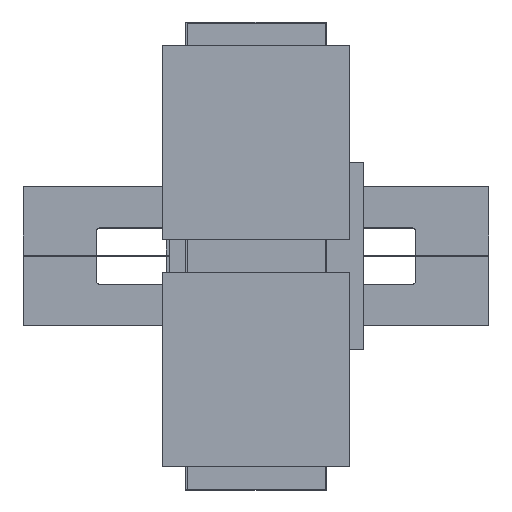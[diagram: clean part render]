
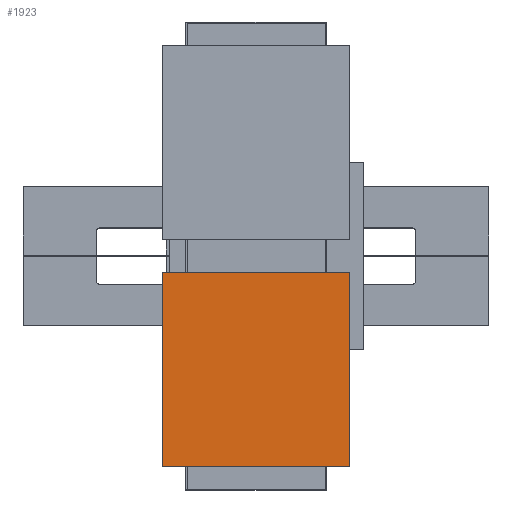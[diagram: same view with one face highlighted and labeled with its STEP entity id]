
A CAD part, top view. The second image highlights one B-rep face of the part: STEP entity #1923.
In plain terms, the highlighted planar face has unit normal (0, 0, 1).
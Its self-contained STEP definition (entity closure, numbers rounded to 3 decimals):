
#1923 = ADVANCED_FACE( '', ( #5096 ), #5097, .T. );
#5096 = FACE_OUTER_BOUND( '', #8607, .T. );
#5097 = PLANE( '', #8608 );
#8607 = EDGE_LOOP( '', ( #22576, #22577, #22578, #22579 ) );
#8608 = AXIS2_PLACEMENT_3D( '', #22580, #22581, #22582 );
#22576 = ORIENTED_EDGE( '', *, *, #26651, .T. );
#22577 = ORIENTED_EDGE( '', *, *, #26688, .T. );
#22578 = ORIENTED_EDGE( '', *, *, #26692, .T. );
#22579 = ORIENTED_EDGE( '', *, *, #26683, .T. );
#22580 = CARTESIAN_POINT( '', ( -92.5, -100., 49. ) );
#22581 = DIRECTION( '', ( 0., 0., 1. ) );
#22582 = DIRECTION( '', ( 1., 0., 0. ) );
#26651 = EDGE_CURVE( '', #33250, #33248, #33251, .T. );
#26683 = EDGE_CURVE( '', #33307, #33250, #33308, .T. );
#26688 = EDGE_CURVE( '', #33248, #33314, #33316, .T. );
#26692 = EDGE_CURVE( '', #33314, #33307, #33322, .T. );
#33248 = VERTEX_POINT( '', #46497 );
#33250 = VERTEX_POINT( '', #46500 );
#33251 = LINE( '', #46501, #46502 );
#33307 = VERTEX_POINT( '', #46578 );
#33308 = LINE( '', #46579, #46580 );
#33314 = VERTEX_POINT( '', #46588 );
#33316 = LINE( '', #46591, #46592 );
#33322 = LINE( '', #46600, #46601 );
#46497 = CARTESIAN_POINT( '', ( -92.5, -100., 49. ) );
#46500 = CARTESIAN_POINT( '', ( -92.5, 100., 49. ) );
#46501 = CARTESIAN_POINT( '', ( -92.5, 100., 49. ) );
#46502 = VECTOR( '', #51011, 1000. );
#46578 = CARTESIAN_POINT( '', ( 115., 100., 49. ) );
#46579 = CARTESIAN_POINT( '', ( 115., 100., 49. ) );
#46580 = VECTOR( '', #51065, 1000. );
#46588 = CARTESIAN_POINT( '', ( 115., -100., 49. ) );
#46591 = CARTESIAN_POINT( '', ( -92.5, -100., 49. ) );
#46592 = VECTOR( '', #51072, 1000. );
#46600 = CARTESIAN_POINT( '', ( 115., -100., 49. ) );
#46601 = VECTOR( '', #51078, 1000. );
#51011 = DIRECTION( '', ( 0., -1., 0. ) );
#51065 = DIRECTION( '', ( -1., 0., 0. ) );
#51072 = DIRECTION( '', ( 1., 0., 0. ) );
#51078 = DIRECTION( '', ( 0., 1., 0. ) );
